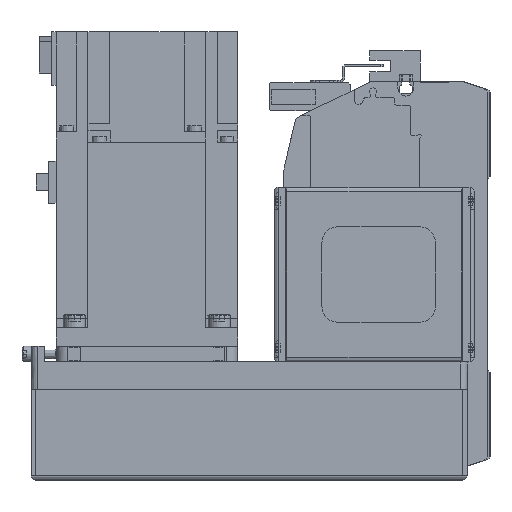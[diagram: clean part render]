
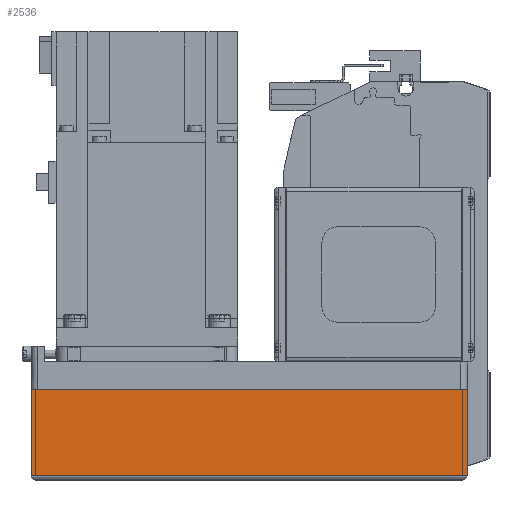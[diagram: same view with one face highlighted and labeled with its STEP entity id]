
A CAD part, left-side view. The second image highlights one B-rep face of the part: STEP entity #2536.
In plain terms, the highlighted planar face has unit normal (-1, 0, 0) as drawn and (0, -1, 0) by its records, which use the part's own axes.
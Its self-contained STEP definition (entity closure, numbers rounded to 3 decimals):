
#2536 = ADVANCED_FACE( '', ( #5703 ), #5704, .T. );
#5703 = FACE_OUTER_BOUND( '', #9569, .T. );
#5704 = PLANE( '', #9570 );
#9569 = EDGE_LOOP( '', ( #16797, #16798, #16799, #16800 ) );
#9570 = AXIS2_PLACEMENT_3D( '', #16801, #16802, #16803 );
#16797 = ORIENTED_EDGE( '', *, *, #21778, .F. );
#16798 = ORIENTED_EDGE( '', *, *, #24059, .F. );
#16799 = ORIENTED_EDGE( '', *, *, #24280, .T. );
#16800 = ORIENTED_EDGE( '', *, *, #24281, .T. );
#16801 = CARTESIAN_POINT( '', ( -192., -40., -12.1 ) );
#16802 = DIRECTION( '', ( 0., -1., 0. ) );
#16803 = DIRECTION( '', ( 0., 0., -1. ) );
#21778 = EDGE_CURVE( '', #25912, #25913, #25914, .T. );
#24059 = EDGE_CURVE( '', #28229, #25912, #29572, .T. );
#24280 = EDGE_CURVE( '', #28229, #26029, #29875, .T. );
#24281 = EDGE_CURVE( '', #26029, #25913, #29876, .T. );
#25912 = VERTEX_POINT( '', #31925 );
#25913 = VERTEX_POINT( '', #31926 );
#25914 = LINE( '', #31927, #31928 );
#26029 = VERTEX_POINT( '', #32089 );
#28229 = VERTEX_POINT( '', #35390 );
#29572 = LINE( '', #37607, #37608 );
#29875 = LINE( '', #38393, #38394 );
#29876 = LINE( '', #38395, #38396 );
#31925 = CARTESIAN_POINT( '', ( 0., -40., -12.1 ) );
#31926 = CARTESIAN_POINT( '', ( 0., -40., -50. ) );
#31927 = CARTESIAN_POINT( '', ( 0., -40., -12.1 ) );
#31928 = VECTOR( '', #40886, 1000. );
#32089 = CARTESIAN_POINT( '', ( -192., -40., -50. ) );
#35390 = CARTESIAN_POINT( '', ( -192., -40., -12.1 ) );
#37607 = CARTESIAN_POINT( '', ( -192., -40., -12.1 ) );
#37608 = VECTOR( '', #43733, 1000. );
#38393 = CARTESIAN_POINT( '', ( -192., -40., -12.1 ) );
#38394 = VECTOR( '', #43997, 1000. );
#38395 = CARTESIAN_POINT( '', ( -192., -40., -50. ) );
#38396 = VECTOR( '', #43998, 1000. );
#40886 = DIRECTION( '', ( 0., 0., -1. ) );
#43733 = DIRECTION( '', ( 1., 0., 0. ) );
#43997 = DIRECTION( '', ( 0., 0., -1. ) );
#43998 = DIRECTION( '', ( 1., 0., 0. ) );
